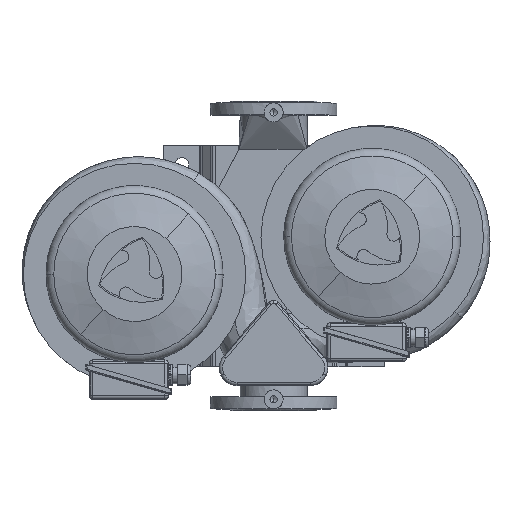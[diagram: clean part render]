
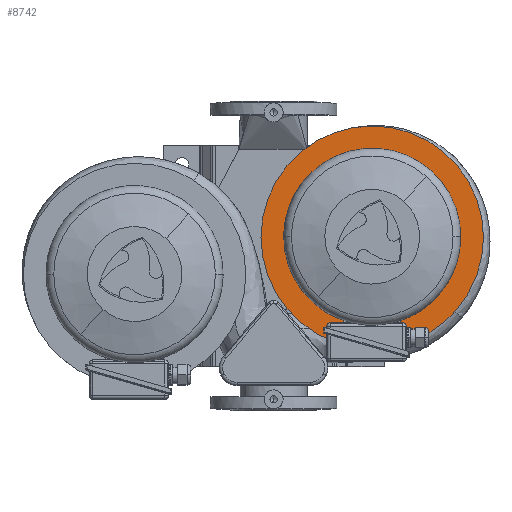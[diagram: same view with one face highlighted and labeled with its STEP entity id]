
A CAD part, top view. The second image highlights one B-rep face of the part: STEP entity #8742.
In plain terms, the highlighted planar face has unit normal (0, 0, 1) as drawn and (1, 0, 0) by its records, which use the part's own axes.
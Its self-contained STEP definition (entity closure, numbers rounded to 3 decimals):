
#8742=ADVANCED_FACE('',(#18650,#18651),#18652,.T.);
#8766=EDGE_CURVE('',#18691,#18692,#18693,.T.);
#8790=EDGE_CURVE('',#18735,#18736,#18737,.T.);
#8798=EDGE_CURVE('',#18745,#18748,#18749,.T.);
#8806=EDGE_CURVE('',#18757,#18760,#18761,.T.);
#8812=EDGE_CURVE('',#18764,#18736,#18769,.T.);
#8814=EDGE_CURVE('',#18771,#18748,#18772,.T.);
#8822=EDGE_CURVE('',#18783,#18779,#18784,.T.);
#8830=EDGE_CURVE('',#18794,#18790,#18795,.T.);
#8838=EDGE_CURVE('',#18801,#18804,#18805,.T.);
#8848=EDGE_CURVE('',#18815,#18745,#18818,.T.);
#8854=EDGE_CURVE('',#18823,#18757,#18826,.T.);
#8862=EDGE_CURVE('',#18834,#18829,#18837,.T.);
#8864=EDGE_CURVE('',#18760,#18779,#18839,.T.);
#8868=EDGE_CURVE('',#18829,#18790,#18843,.T.);
#8872=EDGE_CURVE('',#18804,#18735,#18847,.T.);
#8876=EDGE_CURVE('',#18771,#18823,#18851,.T.);
#8880=EDGE_CURVE('',#18783,#18834,#18855,.T.);
#8882=EDGE_CURVE('',#18764,#18815,#18857,.T.);
#8886=EDGE_CURVE('',#18692,#18691,#18861,.T.);
#8888=EDGE_CURVE('',#18794,#18801,#18863,.T.);
#18650=FACE_OUTER_BOUND('',#38397,.T.);
#18651=FACE_BOUND('',#38398,.T.);
#18652=PLANE('',#38399);
#18691=VERTEX_POINT('',#38440);
#18692=VERTEX_POINT('',#38441);
#18693=CIRCLE('',#38442,176.0);
#18735=VERTEX_POINT('',#38496);
#18736=VERTEX_POINT('',#38497);
#18737=CIRCLE('',#38498,117.907);
#18745=VERTEX_POINT('',#38518);
#18748=VERTEX_POINT('',#38531);
#18749=CIRCLE('',#38532,117.907);
#18757=VERTEX_POINT('',#38552);
#18760=VERTEX_POINT('',#38565);
#18761=CIRCLE('',#38566,117.907);
#18764=VERTEX_POINT('',#38570);
#18769=LINE('',#38587,#38588);
#18771=VERTEX_POINT('',#38591);
#18772=LINE('',#38592,#38593);
#18779=VERTEX_POINT('',#38613);
#18783=VERTEX_POINT('',#38627);
#18784=LINE('',#38628,#38629);
#18790=VERTEX_POINT('',#38648);
#18794=VERTEX_POINT('',#38662);
#18795=LINE('',#38663,#38664);
#18801=VERTEX_POINT('',#38683);
#18804=VERTEX_POINT('',#38696);
#18805=LINE('',#38697,#38698);
#18815=VERTEX_POINT('',#38723);
#18818=LINE('',#38736,#38737);
#18823=VERTEX_POINT('',#38745);
#18826=LINE('',#38758,#38759);
#18829=VERTEX_POINT('',#38763);
#18834=VERTEX_POINT('',#38780);
#18837=LINE('',#38793,#38794);
#18839=CIRCLE('',#38797,117.907);
#18843=CIRCLE('',#38803,117.907);
#18847=CIRCLE('',#38809,117.907);
#18851=CIRCLE('',#38815,128.0);
#18855=CIRCLE('',#38821,128.0);
#18857=CIRCLE('',#38824,128.0);
#18861=CIRCLE('',#38830,176.0);
#18863=CIRCLE('',#38833,128.0);
#38397=EDGE_LOOP('',(#58113,#58114));
#38398=EDGE_LOOP('',(#58115,#58116,#58117,#58118,#58119,#58120,#58121,#58122,#58123,#58124,#58125,#58126,#58127,#58128,#58129,#58130,#58131,#58132));
#38399=AXIS2_PLACEMENT_3D('',#58133,#58134,#58135);
#38440=CARTESIAN_POINT('',(19.0,176.0,0.0));
#38441=CARTESIAN_POINT('',(19.0,-176.0,0.));
#38442=AXIS2_PLACEMENT_3D('',#58235,#58236,#58237);
#38496=CARTESIAN_POINT('',(19.0,-117.907,0.));
#38497=CARTESIAN_POINT('',(19.0,-105.762,-52.12));
#38498=AXIS2_PLACEMENT_3D('',#58271,#58272,#58273);
#38518=CARTESIAN_POINT('',(19.0,-52.12,-105.762));
#38531=CARTESIAN_POINT('',(19.0,52.12,-105.762));
#38532=AXIS2_PLACEMENT_3D('',#58277,#58278,#58279);
#38552=CARTESIAN_POINT('',(19.0,105.762,-52.12));
#38565=CARTESIAN_POINT('',(19.0,117.907,0.));
#38566=AXIS2_PLACEMENT_3D('',#58283,#58284,#58285);
#38570=CARTESIAN_POINT('',(19.0,-115.686,-54.779));
#38587=CARTESIAN_POINT('',(19.0,-115.686,-54.779));
#38588=VECTOR('',#58287,1.0);
#38591=CARTESIAN_POINT('',(19.0,54.779,-115.686));
#38592=CARTESIAN_POINT('',(19.0,54.779,-115.686));
#38593=VECTOR('',#58288,1.0);
#38613=CARTESIAN_POINT('',(19.0,105.762,52.12));
#38627=CARTESIAN_POINT('',(19.0,115.686,54.779));
#38628=CARTESIAN_POINT('',(19.0,115.686,54.779));
#38629=VECTOR('',#58290,1.0);
#38648=CARTESIAN_POINT('',(19.0,-52.12,105.762));
#38662=CARTESIAN_POINT('',(19.0,-54.779,115.686));
#38663=CARTESIAN_POINT('',(19.0,-54.779,115.686));
#38664=VECTOR('',#58292,1.0);
#38683=CARTESIAN_POINT('',(19.0,-115.686,54.779));
#38696=CARTESIAN_POINT('',(19.0,-105.762,52.12));
#38697=CARTESIAN_POINT('',(19.0,-115.686,54.779));
#38698=VECTOR('',#58294,1.0);
#38723=CARTESIAN_POINT('',(19.0,-54.779,-115.686));
#38736=CARTESIAN_POINT('',(19.0,-54.779,-115.686));
#38737=VECTOR('',#58297,1.0);
#38745=CARTESIAN_POINT('',(19.0,115.686,-54.779));
#38758=CARTESIAN_POINT('',(19.0,115.686,-54.779));
#38759=VECTOR('',#58299,1.0);
#38763=CARTESIAN_POINT('',(19.0,52.12,105.762));
#38780=CARTESIAN_POINT('',(19.0,54.779,115.686));
#38793=CARTESIAN_POINT('',(19.0,54.779,115.686));
#38794=VECTOR('',#58301,1.0);
#38797=AXIS2_PLACEMENT_3D('',#58302,#58303,#58304);
#38803=AXIS2_PLACEMENT_3D('',#58308,#58309,#58310);
#38809=AXIS2_PLACEMENT_3D('',#58314,#58315,#58316);
#38815=AXIS2_PLACEMENT_3D('',#58320,#58321,#58322);
#38821=AXIS2_PLACEMENT_3D('',#58326,#58327,#58328);
#38824=AXIS2_PLACEMENT_3D('',#58329,#58330,#58331);
#38830=AXIS2_PLACEMENT_3D('',#58335,#58336,#58337);
#38833=AXIS2_PLACEMENT_3D('',#58338,#58339,#58340);
#58113=ORIENTED_EDGE('',*,*,#8766,.T.);
#58114=ORIENTED_EDGE('',*,*,#8886,.T.);
#58115=ORIENTED_EDGE('',*,*,#8888,.F.);
#58116=ORIENTED_EDGE('',*,*,#8830,.T.);
#58117=ORIENTED_EDGE('',*,*,#8868,.F.);
#58118=ORIENTED_EDGE('',*,*,#8862,.F.);
#58119=ORIENTED_EDGE('',*,*,#8880,.F.);
#58120=ORIENTED_EDGE('',*,*,#8822,.T.);
#58121=ORIENTED_EDGE('',*,*,#8864,.F.);
#58122=ORIENTED_EDGE('',*,*,#8806,.F.);
#58123=ORIENTED_EDGE('',*,*,#8854,.F.);
#58124=ORIENTED_EDGE('',*,*,#8876,.F.);
#58125=ORIENTED_EDGE('',*,*,#8814,.T.);
#58126=ORIENTED_EDGE('',*,*,#8798,.F.);
#58127=ORIENTED_EDGE('',*,*,#8848,.F.);
#58128=ORIENTED_EDGE('',*,*,#8882,.F.);
#58129=ORIENTED_EDGE('',*,*,#8812,.T.);
#58130=ORIENTED_EDGE('',*,*,#8790,.F.);
#58131=ORIENTED_EDGE('',*,*,#8872,.F.);
#58132=ORIENTED_EDGE('',*,*,#8838,.F.);
#58133=CARTESIAN_POINT('',(19.0,152.0,0.0));
#58134=DIRECTION('',(1.0,0.0,0.0));
#58135=DIRECTION('',(0.0,0.0,-1.0));
#58235=CARTESIAN_POINT('',(19.0,0.0,0.0));
#58236=DIRECTION('',(1.0,0.0,0.0));
#58237=DIRECTION('',(0.0,1.0,0.0));
#58271=CARTESIAN_POINT('',(19.0,0.0,0.0));
#58272=DIRECTION('',(1.0,0.0,0.0));
#58273=DIRECTION('',(0.0,1.0,0.0));
#58277=CARTESIAN_POINT('',(19.0,0.0,0.0));
#58278=DIRECTION('',(1.0,0.0,0.0));
#58279=DIRECTION('',(0.0,1.0,0.0));
#58283=CARTESIAN_POINT('',(19.0,0.0,0.0));
#58284=DIRECTION('',(1.0,0.0,0.0));
#58285=DIRECTION('',(0.0,1.0,0.0));
#58287=DIRECTION('',(0.,0.966,0.259));
#58288=DIRECTION('',(0.,-0.259,0.966));
#58290=DIRECTION('',(0.,-0.966,-0.259));
#58292=DIRECTION('',(0.,0.259,-0.966));
#58294=DIRECTION('',(0.,0.966,-0.259));
#58297=DIRECTION('',(0.,0.259,0.966));
#58299=DIRECTION('',(0.,-0.966,0.259));
#58301=DIRECTION('',(0.,-0.259,-0.966));
#58302=CARTESIAN_POINT('',(19.0,0.0,0.0));
#58303=DIRECTION('',(1.0,0.0,0.0));
#58304=DIRECTION('',(0.0,1.0,0.0));
#58308=CARTESIAN_POINT('',(19.0,0.0,0.0));
#58309=DIRECTION('',(1.0,0.0,0.0));
#58310=DIRECTION('',(0.0,1.0,0.0));
#58314=CARTESIAN_POINT('',(19.0,0.0,0.0));
#58315=DIRECTION('',(1.0,0.0,0.0));
#58316=DIRECTION('',(0.0,1.0,0.0));
#58320=CARTESIAN_POINT('',(19.0,0.0,0.0));
#58321=DIRECTION('',(1.0,0.0,0.0));
#58322=DIRECTION('',(0.0,1.0,0.0));
#58326=CARTESIAN_POINT('',(19.0,0.0,0.0));
#58327=DIRECTION('',(1.0,0.0,0.0));
#58328=DIRECTION('',(0.0,1.0,0.0));
#58329=CARTESIAN_POINT('',(19.0,0.0,0.0));
#58330=DIRECTION('',(1.0,0.0,0.0));
#58331=DIRECTION('',(0.0,1.0,0.0));
#58335=CARTESIAN_POINT('',(19.0,0.0,0.0));
#58336=DIRECTION('',(1.0,0.0,0.0));
#58337=DIRECTION('',(0.0,1.0,0.0));
#58338=CARTESIAN_POINT('',(19.0,0.0,0.0));
#58339=DIRECTION('',(1.0,0.0,0.0));
#58340=DIRECTION('',(0.0,1.0,0.0));
